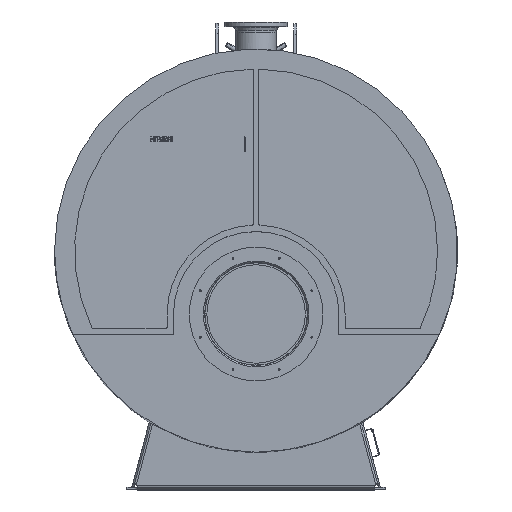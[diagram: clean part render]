
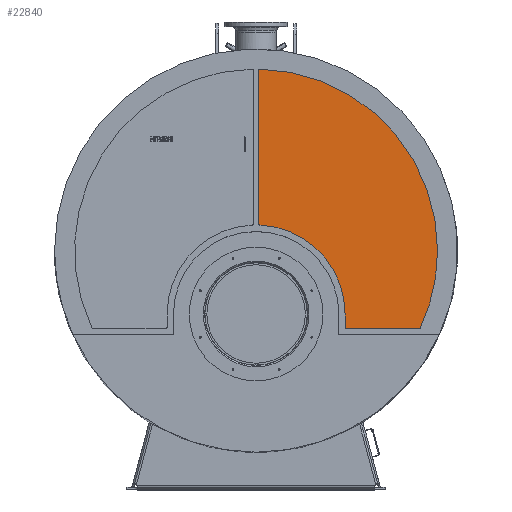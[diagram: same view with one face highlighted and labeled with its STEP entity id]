
A CAD part, top view. The second image highlights one B-rep face of the part: STEP entity #22840.
In plain terms, the highlighted planar face has unit normal (0, 0, 1).
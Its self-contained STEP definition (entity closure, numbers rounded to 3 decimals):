
#22567=CARTESIAN_POINT('',(19.929,137.141,283.));
#22568=VERTEX_POINT('',#22567);
#22575=CARTESIAN_POINT('',(14.582,143.088,283.));
#22576=VERTEX_POINT('',#22575);
#22577=CARTESIAN_POINT('',(20.582,143.105,283.));
#22578=DIRECTION('',(0.,0.,-1.));
#22579=DIRECTION('',(1.,0.,0.));
#22580=AXIS2_PLACEMENT_3D('',#22577,#22578,#22579);
#22581=CIRCLE('',#22580,6.);
#22582=EDGE_CURVE('',#22568,#22576,#22581,.T.);
#22598=CARTESIAN_POINT('',(12.167,970.312,283.));
#22599=VERTEX_POINT('',#22598);
#22600=CARTESIAN_POINT('',(14.582,143.088,283.));
#22601=DIRECTION('',(-0.003,1.,0.));
#22602=VECTOR('',#22601,827.228);
#22603=LINE('',#22600,#22602);
#22604=EDGE_CURVE('',#22576,#22599,#22603,.T.);
#22622=CARTESIAN_POINT('',(18.279,976.329,283.));
#22623=VERTEX_POINT('',#22622);
#22624=CARTESIAN_POINT('',(18.167,970.33,283.));
#22625=DIRECTION('',(0.,0.,-1.));
#22626=DIRECTION('',(1.,0.,0.));
#22627=AXIS2_PLACEMENT_3D('',#22624,#22625,#22626);
#22628=CIRCLE('',#22627,6.);
#22629=EDGE_CURVE('',#22599,#22623,#22628,.T.);
#22648=CARTESIAN_POINT('',(976.5,0.,283.));
#22649=VERTEX_POINT('',#22648);
#22658=CARTESIAN_POINT('',(-0.,-0.,283.));
#22659=DIRECTION('',(0.,0.,-1.));
#22660=DIRECTION('',(1.,0.,0.));
#22661=AXIS2_PLACEMENT_3D('',#22658,#22659,#22660);
#22662=CIRCLE('',#22661,976.5);
#22663=EDGE_CURVE('',#22623,#22649,#22662,.T.);
#22675=CARTESIAN_POINT('',(20.74,137.05,283.));
#22676=VERTEX_POINT('',#22675);
#22683=CARTESIAN_POINT('',(21.,143.045,283.));
#22684=DIRECTION('',(-0.,-0.,1.));
#22685=DIRECTION('',(-1.,0.,0.));
#22686=AXIS2_PLACEMENT_3D('',#22683,#22684,#22685);
#22687=CIRCLE('',#22686,6.);
#22688=EDGE_CURVE('',#22568,#22676,#22687,.T.);
#22698=CARTESIAN_POINT('',(478.5,-341.,283.));
#22699=VERTEX_POINT('',#22698);
#22700=CARTESIAN_POINT('',(0.,-341.,283.));
#22701=DIRECTION('',(0.,0.,-1.));
#22702=DIRECTION('',(1.,0.,0.));
#22703=AXIS2_PLACEMENT_3D('',#22700,#22701,#22702);
#22704=CIRCLE('',#22703,478.5);
#22705=EDGE_CURVE('',#22676,#22699,#22704,.T.);
#22724=CARTESIAN_POINT('',(478.5,-413.,283.));
#22725=VERTEX_POINT('',#22724);
#22732=CARTESIAN_POINT('',(478.5,-341.,283.));
#22733=DIRECTION('',(0.,-1.,0.));
#22734=VECTOR('',#22733,72.);
#22735=LINE('',#22732,#22734);
#22736=EDGE_CURVE('',#22699,#22725,#22735,.T.);
#22748=CARTESIAN_POINT('',(878.238,-419.,283.));
#22749=VERTEX_POINT('',#22748);
#22756=CARTESIAN_POINT('',(484.5,-419.,283.));
#22757=VERTEX_POINT('',#22756);
#22758=CARTESIAN_POINT('',(484.5,-419.,283.));
#22759=DIRECTION('',(1.,0.,0.));
#22760=VECTOR('',#22759,393.738);
#22761=LINE('',#22758,#22760);
#22762=EDGE_CURVE('',#22757,#22749,#22761,.T.);
#22779=CARTESIAN_POINT('',(883.667,-415.553,283.));
#22780=VERTEX_POINT('',#22779);
#22787=CARTESIAN_POINT('',(878.238,-413.,283.));
#22788=DIRECTION('',(-0.,-0.,1.));
#22789=DIRECTION('',(-1.,0.,0.));
#22790=AXIS2_PLACEMENT_3D('',#22787,#22788,#22789);
#22791=CIRCLE('',#22790,6.);
#22792=EDGE_CURVE('',#22749,#22780,#22791,.T.);
#22805=CARTESIAN_POINT('',(484.5,-413.,283.));
#22806=DIRECTION('',(-0.,-0.,1.));
#22807=DIRECTION('',(-1.,0.,0.));
#22808=AXIS2_PLACEMENT_3D('',#22805,#22806,#22807);
#22809=CIRCLE('',#22808,6.);
#22810=EDGE_CURVE('',#22725,#22757,#22809,.T.);
#22816=CARTESIAN_POINT('',(-495.75,278.636,283.));
#22817=DIRECTION('',(0.,0.,1.));
#22818=DIRECTION('',(1.,0.,0.));
#22819=AXIS2_PLACEMENT_3D('',#22816,#22817,#22818);
#22820=PLANE('',#22819);
#22821=ORIENTED_EDGE('',*,*,#22582,.F.);
#22822=ORIENTED_EDGE('',*,*,#22688,.T.);
#22823=ORIENTED_EDGE('',*,*,#22705,.T.);
#22824=ORIENTED_EDGE('',*,*,#22736,.T.);
#22825=ORIENTED_EDGE('',*,*,#22810,.T.);
#22826=ORIENTED_EDGE('',*,*,#22762,.T.);
#22827=ORIENTED_EDGE('',*,*,#22792,.T.);
#22828=CARTESIAN_POINT('',(-0.,-0.,283.));
#22829=DIRECTION('',(0.,0.,-1.));
#22830=DIRECTION('',(1.,0.,0.));
#22831=AXIS2_PLACEMENT_3D('',#22828,#22829,#22830);
#22832=CIRCLE('',#22831,976.5);
#22833=EDGE_CURVE('',#22649,#22780,#22832,.T.);
#22834=ORIENTED_EDGE('',*,*,#22833,.F.);
#22835=ORIENTED_EDGE('',*,*,#22663,.F.);
#22836=ORIENTED_EDGE('',*,*,#22629,.F.);
#22837=ORIENTED_EDGE('',*,*,#22604,.F.);
#22838=EDGE_LOOP('',(#22821,#22822,#22823,#22824,#22825,#22826,#22827,#22834,#22835,#22836,#22837));
#22839=FACE_BOUND('',#22838,.T.);
#22840=ADVANCED_FACE('',(#22839),#22820,.T.);
